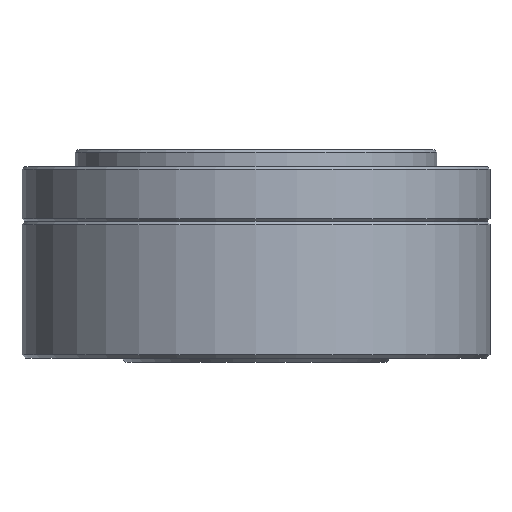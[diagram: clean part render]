
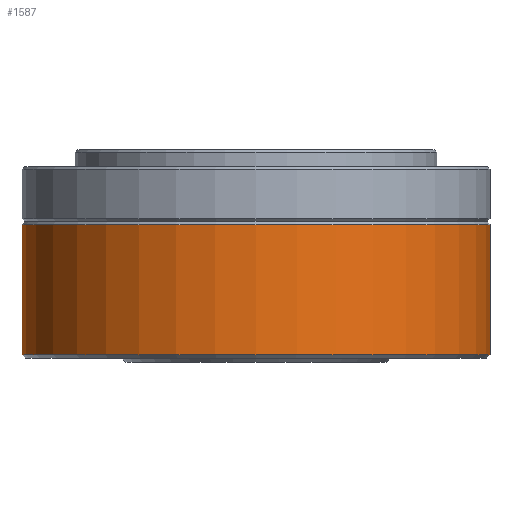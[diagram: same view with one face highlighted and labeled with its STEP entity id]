
A CAD part, front view. The second image highlights one B-rep face of the part: STEP entity #1587.
In plain terms, the highlighted cylindrical face has radius 27.5 mm (diameter 55 mm), a full revolution.
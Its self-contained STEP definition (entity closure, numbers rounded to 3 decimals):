
#1435=CYLINDRICAL_SURFACE('',#7571,27.5);
#1587=ADVANCED_FACE('',(#2244,#2245),#1435,.T.);
#2244=FACE_BOUND('',#2929,.T.);
#2245=FACE_BOUND('',#2930,.T.);
#2929=EDGE_LOOP('',(#3755));
#2930=EDGE_LOOP('',(#3756));
#3755=ORIENTED_EDGE('',*,*,#6132,.T.);
#3756=ORIENTED_EDGE('',*,*,#6131,.F.);
#5432=VERTEX_POINT('',#11065);
#5433=VERTEX_POINT('',#11068);
#6131=EDGE_CURVE('',#5432,#5432,#6975,.T.);
#6132=EDGE_CURVE('',#5433,#5433,#6976,.T.);
#6975=CIRCLE('',#7568,27.5);
#6976=CIRCLE('',#7570,27.5);
#7568=AXIS2_PLACEMENT_3D('',#11064,#8706,#8707);
#7570=AXIS2_PLACEMENT_3D('',#11067,#8710,#8711);
#7571=AXIS2_PLACEMENT_3D('',#11069,#8712,#8713);
#8706=DIRECTION('',(0.,0.,-1.));
#8707=DIRECTION('',(-1.,0.,0.));
#8710=DIRECTION('',(0.,0.,-1.));
#8711=DIRECTION('',(-1.,0.,0.));
#8712=DIRECTION('',(0.,0.,-1.));
#8713=DIRECTION('',(-1.,0.,0.));
#11064=CARTESIAN_POINT('',(0.,0.,0.9));
#11065=CARTESIAN_POINT('',(-27.5,0.,0.9));
#11067=CARTESIAN_POINT('',(0.,0.,16.2));
#11068=CARTESIAN_POINT('',(-27.5,0.,16.2));
#11069=CARTESIAN_POINT('',(0.,0.,0.));
